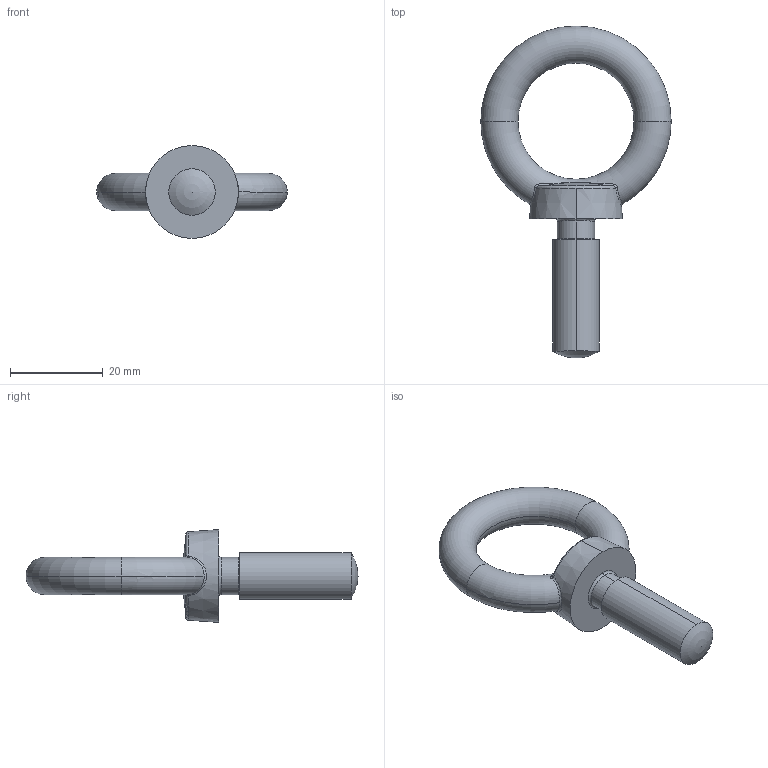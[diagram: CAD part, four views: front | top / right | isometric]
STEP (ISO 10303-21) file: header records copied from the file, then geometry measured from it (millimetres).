
FILE_DESCRIPTION (( 'STEP AP203' ), '1' );
FILE_NAME ('EB-901(S)-1030.STEP', '2013-07-03T08:38:41', ( 'SDS' ), ( 'SDS' ), 'SwSTEP 2.0', 'SolidWorks 2002296', '' );
FILE_SCHEMA (( 'CONFIG_CONTROL_DESIGN' ));
Length unit declared in the file: millimetre
Products named in the file (1): EB-901(S)-1030
Bounding box: 41 x 71.5 x 20 mm (x, y, z)
Volume: 8793.7 mm3; surface area: 4050.6 mm2
Topology: 1 solids, 1 shells, 31 faces, 72 edges, 42 vertices
Faces by surface type: torus 11, bspline 8, cone 5, cylinder 4, plane 2, sphere 1
Entity records: 7012 total; most frequent: CARTESIAN_POINT 6272, DIRECTION 141, ORIENTED_EDGE 138, EDGE_CURVE 69, AXIS2_PLACEMENT_3D 67, CIRCLE 43, VERTEX_POINT 40, EDGE_LOOP 33
